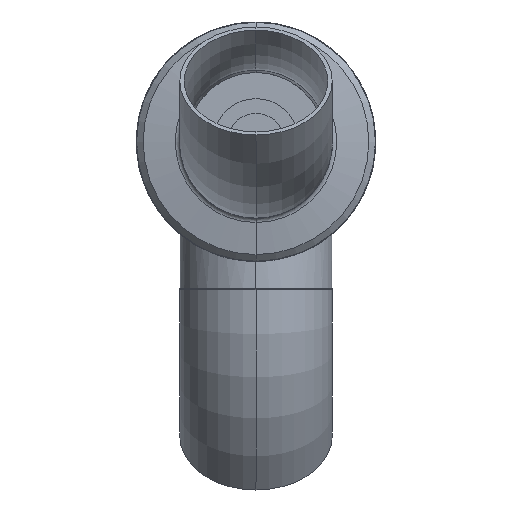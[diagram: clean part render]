
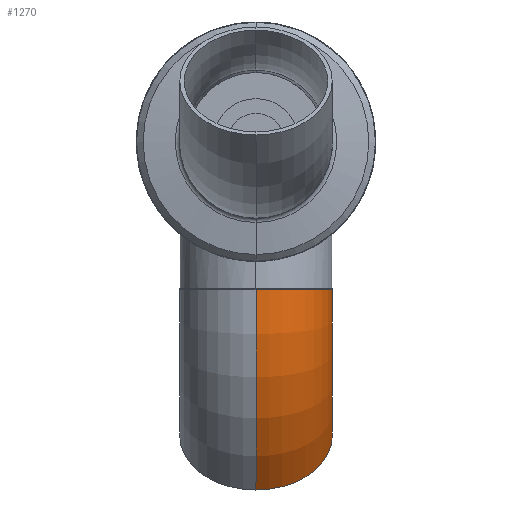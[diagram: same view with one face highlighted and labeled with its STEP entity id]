
A CAD part, front view. The second image highlights one B-rep face of the part: STEP entity #1270.
In plain terms, the highlighted toroidal (fillet/blend) face has major radius 190 mm and minor radius 69.85 mm.
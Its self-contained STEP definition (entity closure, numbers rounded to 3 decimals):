
#936 = EDGE_CURVE ( 'NONE', #1280, #1402, #3168, .T. ) ;
#970 = ORIENTED_EDGE ( 'NONE', *, *, #936, .T. ) ;
#1024 = ORIENTED_EDGE ( 'NONE', *, *, #1187, .T. ) ;
#1085 = EDGE_CURVE ( 'NONE', #1519, #1542, #4555, .T. ) ;
#1135 = ORIENTED_EDGE ( 'NONE', *, *, #1085, .F. ) ;
#1187 = EDGE_CURVE ( 'NONE', #1519, #1280, #6159, .T. ) ;
#1202 = ORIENTED_EDGE ( 'NONE', *, *, #1430, .F. ) ;
#1247 = EDGE_LOOP ( 'NONE', ( #1202, #1135, #1024, #970 ) ) ;
#1270 = ADVANCED_FACE ( 'NONE', ( #7513 ), #7514, .T. ) ;
#1280 = VERTEX_POINT ( 'NONE', #7618 ) ;
#1402 = VERTEX_POINT ( 'NONE', #8577 ) ;
#1430 = EDGE_CURVE ( 'NONE', #1542, #1402, #8742, .T. ) ;
#1519 = VERTEX_POINT ( 'NONE', #3499 ) ;
#1542 = VERTEX_POINT ( 'NONE', #3878 ) ;
#3168 = CIRCLE ( 'NONE', #3169, 69.85 ) ;
#3169 = AXIS2_PLACEMENT_3D ( 'NONE', #3170, #3171, #3172 ) ;
#3170 = CARTESIAN_POINT ( 'NONE',  ( 0., 0., 0. ) ) ;
#3171 = DIRECTION ( 'NONE',  ( 1., 0., 0. ) ) ;
#3172 = DIRECTION ( 'NONE',  ( 0., 0., -1. ) ) ;
#3499 = CARTESIAN_POINT ( 'NONE',  ( 84.959, -105.041, 0. ) ) ;
#3878 = CARTESIAN_POINT ( 'NONE',  ( 183.742, -6.258, 0. ) ) ;
#4555 = CIRCLE ( 'NONE', #4556, 69.85 ) ;
#4556 = AXIS2_PLACEMENT_3D ( 'NONE', #4557, #4558, #4559 ) ;
#4557 = CARTESIAN_POINT ( 'NONE',  ( 134.35, -55.65, 0. ) ) ;
#4558 = DIRECTION ( 'NONE',  ( 0.707, -0.707, 0. ) ) ;
#4559 = DIRECTION ( 'NONE',  ( 0., 0., -1. ) ) ;
#6159 = CIRCLE ( 'NONE', #6160, 120.15 ) ;
#6160 = AXIS2_PLACEMENT_3D ( 'NONE', #6161, #6167, #6168 ) ;
#6161 = CARTESIAN_POINT ( 'NONE',  ( 0., -190., 0. ) ) ;
#6167 = DIRECTION ( 'NONE',  ( 0., 0., 1. ) ) ;
#6168 = DIRECTION ( 'NONE',  ( 1., 0., 0. ) ) ;
#7513 = FACE_OUTER_BOUND ( 'NONE', #1247, .T. ) ;
#7514 = TOROIDAL_SURFACE ( 'NONE', #7515, 190., 69.85 ) ;
#7515 = AXIS2_PLACEMENT_3D ( 'NONE', #7516, #7517, #7518 ) ;
#7516 = CARTESIAN_POINT ( 'NONE',  ( 0., -190., 0. ) ) ;
#7517 = DIRECTION ( 'NONE',  ( 0., 0., 1. ) ) ;
#7518 = DIRECTION ( 'NONE',  ( 1., 0., 0. ) ) ;
#7618 = CARTESIAN_POINT ( 'NONE',  ( 0., -69.85, 0. ) ) ;
#8577 = CARTESIAN_POINT ( 'NONE',  ( 0., 69.85, 0. ) ) ;
#8742 = CIRCLE ( 'NONE', #8743, 259.85 ) ;
#8743 = AXIS2_PLACEMENT_3D ( 'NONE', #8750, #8751, #8752 ) ;
#8750 = CARTESIAN_POINT ( 'NONE',  ( 0., -190., 0. ) ) ;
#8751 = DIRECTION ( 'NONE',  ( 0., 0., 1. ) ) ;
#8752 = DIRECTION ( 'NONE',  ( 1., 0., 0. ) ) ;
